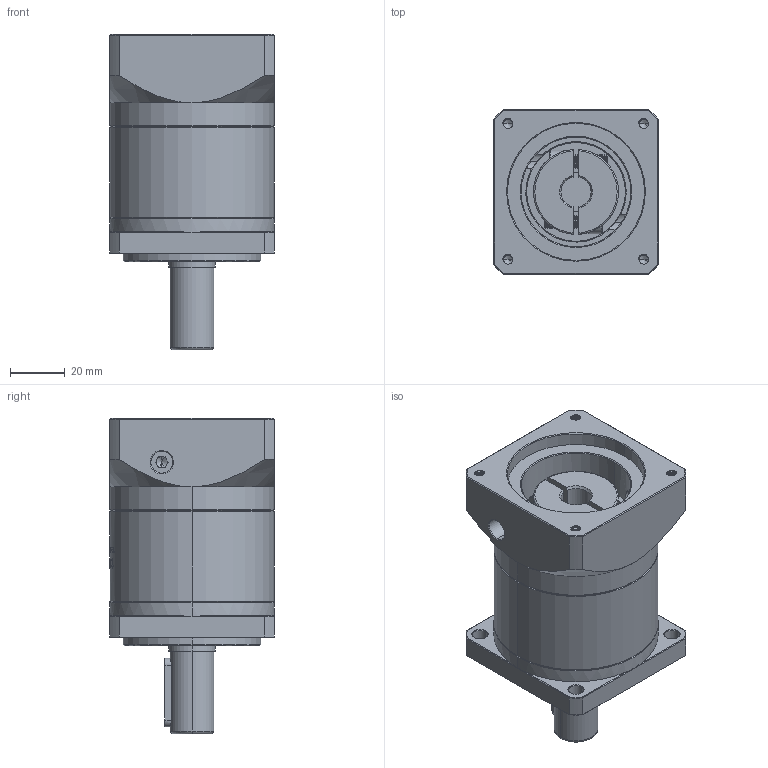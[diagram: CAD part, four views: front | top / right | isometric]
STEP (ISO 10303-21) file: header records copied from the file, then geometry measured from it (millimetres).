
FILE_DESCRIPTION (( 'STEP AP214' ), '1' );
FILE_NAME ('ZF60-D16-L1-11-50-70-M4.STEP', '2022-04-17T11:36:42', ( '' ), ( 'Microsoft' ), 'SwSTEP 2.0', 'SolidWorks 2016', '' );
FILE_SCHEMA (( 'AUTOMOTIVE_DESIGN' ));
Length unit declared in the file: millimetre
Products named in the file (1): ZF60-D16-L1-11-50-70-M4
Bounding box: 60 x 60 x 115 mm (x, y, z)
Volume: 223018.4 mm3; surface area: 43913.8 mm2
Topology: 6 solids, 6 shells, 1624 faces, 4387 edges, 2839 vertices
Faces by surface type: plane 744, cylinder 327, bspline 299, cone 236, torus 18
Entity records: 89162 total; most frequent: CARTESIAN_POINT 34168, ORIENTED_EDGE 8746, DIRECTION 6429, EDGE_CURVE 4373, VERTEX_POINT 2839, LINE 2221, VECTOR 2221, AXIS2_PLACEMENT_3D 2104
